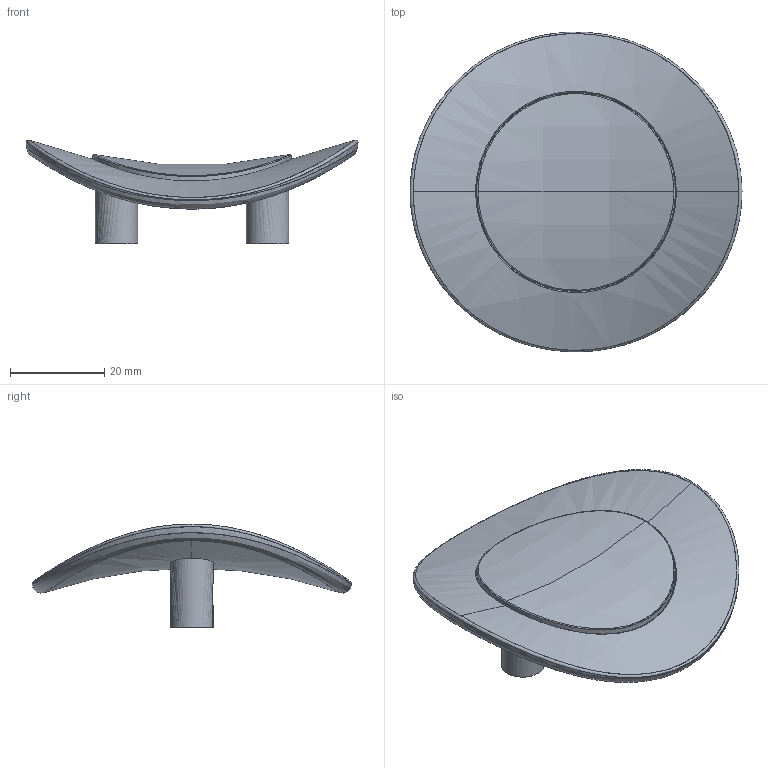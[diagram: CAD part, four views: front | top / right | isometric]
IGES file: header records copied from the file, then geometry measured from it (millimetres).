
Start section: C
Global section: file name: 8269-70.igs; native system: By Siemens PLM Incorporated; preprocessor: XPlus GENERIC/IGES 16.0.42; author: Author; organization: Title; date: 20220504.152807; units: millimetre
Bounding box: 70.34 x 67.78 x 22.01 mm (x, y, z)
Surface area: 12454.6 mm2 (no closed solid volume)
Topology: 0 solids, 0 shells, 35 faces, 194 edges, 194 vertices
Faces by surface type: bspline 35
